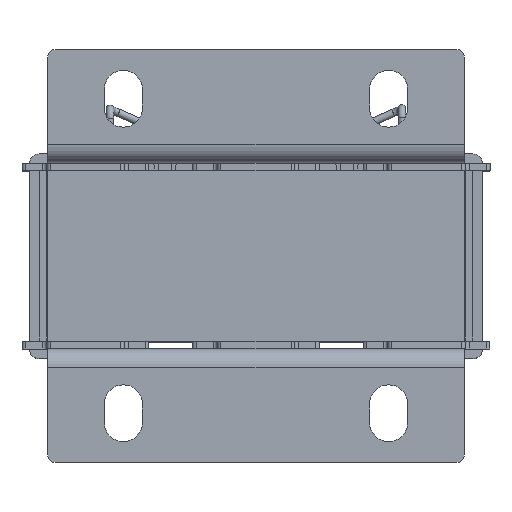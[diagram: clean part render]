
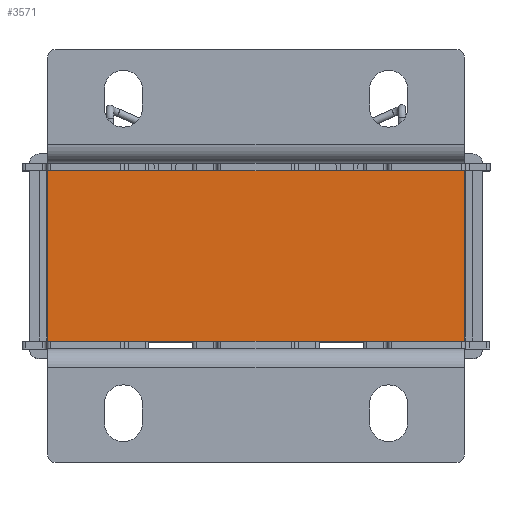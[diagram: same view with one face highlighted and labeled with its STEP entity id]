
A CAD part, top view. The second image highlights one B-rep face of the part: STEP entity #3571.
In plain terms, the highlighted planar face has unit normal (0, 0, 1) as drawn and (0, -1, 0) by its records, which use the part's own axes.
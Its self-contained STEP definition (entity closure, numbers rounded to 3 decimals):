
#3571 = ADVANCED_FACE ( 'NONE', ( #38825 ), #8782, .F. ) ;
#5309 = EDGE_LOOP ( 'NONE', ( #34020, #14779, #23320, #41534 ) ) ;
#5509 = DIRECTION ( 'NONE',  ( 0., 1., 0. ) ) ;
#5920 = VECTOR ( 'NONE', #32250, 1000. ) ;
#6421 = EDGE_CURVE ( 'NONE', #21569, #22476, #28750, .T. ) ;
#7114 = EDGE_CURVE ( 'NONE', #22476, #10214, #25035, .T. ) ;
#8368 = DIRECTION ( 'NONE',  ( 1., 0., 0. ) ) ;
#8782 = PLANE ( 'NONE',  #34190 ) ;
#9244 = CARTESIAN_POINT ( 'NONE',  ( -55., -56.5, 0. ) ) ;
#10214 = VERTEX_POINT ( 'NONE', #29996 ) ;
#10431 = CARTESIAN_POINT ( 'NONE',  ( -55., -56.5, 45. ) ) ;
#11798 = CARTESIAN_POINT ( 'NONE',  ( 55., -56.5, 45. ) ) ;
#11869 = DIRECTION ( 'NONE',  ( -1., 0., 0. ) ) ;
#11882 = CARTESIAN_POINT ( 'NONE',  ( 55., -56.5, 45. ) ) ;
#13132 = VERTEX_POINT ( 'NONE', #9244 ) ;
#13683 = VECTOR ( 'NONE', #16084, 1000. ) ;
#14248 = VECTOR ( 'NONE', #8368, 1000. ) ;
#14779 = ORIENTED_EDGE ( 'NONE', *, *, #7114, .F. ) ;
#16084 = DIRECTION ( 'NONE',  ( 0., 0., -1. ) ) ;
#21569 = VERTEX_POINT ( 'NONE', #10431 ) ;
#21975 = LINE ( 'NONE', #25458, #5920 ) ;
#22476 = VERTEX_POINT ( 'NONE', #11798 ) ;
#23320 = ORIENTED_EDGE ( 'NONE', *, *, #6421, .F. ) ;
#25035 = LINE ( 'NONE', #38817, #42996 ) ;
#25458 = CARTESIAN_POINT ( 'NONE',  ( 55., -56.5, 0. ) ) ;
#25951 = LINE ( 'NONE', #36020, #13683 ) ;
#28750 = LINE ( 'NONE', #11882, #14248 ) ;
#29866 = EDGE_CURVE ( 'NONE', #13132, #10214, #21975, .T. ) ;
#29996 = CARTESIAN_POINT ( 'NONE',  ( 55., -56.5, 0. ) ) ;
#30842 = EDGE_CURVE ( 'NONE', #21569, #13132, #25951, .T. ) ;
#32042 = CARTESIAN_POINT ( 'NONE',  ( 55., -56.5, 45. ) ) ;
#32250 = DIRECTION ( 'NONE',  ( 1., 0., 0. ) ) ;
#34020 = ORIENTED_EDGE ( 'NONE', *, *, #29866, .T. ) ;
#34190 = AXIS2_PLACEMENT_3D ( 'NONE', #32042, #5509, #11869 ) ;
#35116 = DIRECTION ( 'NONE',  ( 0., 0., -1. ) ) ;
#36020 = CARTESIAN_POINT ( 'NONE',  ( -55., -56.5, 45. ) ) ;
#38817 = CARTESIAN_POINT ( 'NONE',  ( 55., -56.5, 45. ) ) ;
#38825 = FACE_OUTER_BOUND ( 'NONE', #5309, .T. ) ;
#41534 = ORIENTED_EDGE ( 'NONE', *, *, #30842, .T. ) ;
#42996 = VECTOR ( 'NONE', #35116, 1000. ) ;
